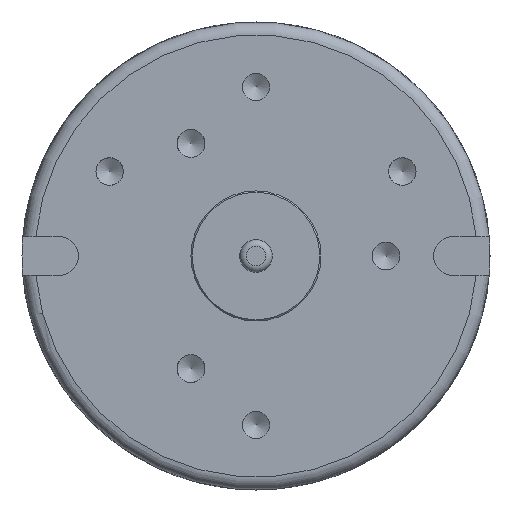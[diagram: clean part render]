
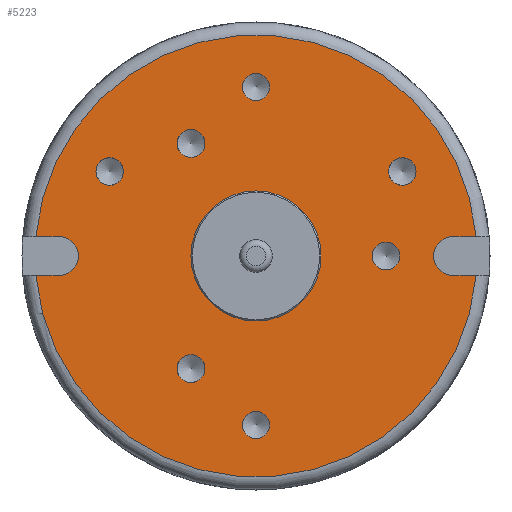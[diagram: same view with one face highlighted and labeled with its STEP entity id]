
A CAD part, front view. The second image highlights one B-rep face of the part: STEP entity #5223.
In plain terms, the highlighted planar face has unit normal (0, -1, 0).
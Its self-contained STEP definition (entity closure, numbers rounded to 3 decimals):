
#58=FACE_BOUND('',#707,.T.);
#59=FACE_BOUND('',#708,.T.);
#60=FACE_BOUND('',#709,.T.);
#61=FACE_BOUND('',#710,.T.);
#62=FACE_BOUND('',#711,.T.);
#63=FACE_BOUND('',#712,.T.);
#64=FACE_BOUND('',#713,.T.);
#65=FACE_BOUND('',#714,.T.);
#179=CIRCLE('',#5691,1.075);
#182=CIRCLE('',#5696,1.075);
#185=CIRCLE('',#5701,1.075);
#188=CIRCLE('',#5706,1.057);
#191=CIRCLE('',#5711,1.057);
#194=CIRCLE('',#5716,1.057);
#197=CIRCLE('',#5721,1.057);
#199=CIRCLE('',#5725,1.5);
#201=CIRCLE('',#5731,1.5);
#202=CIRCLE('',#5735,17.);
#203=CIRCLE('',#5736,17.);
#204=CIRCLE('',#5737,5.);
#417=FACE_OUTER_BOUND('',#706,.T.);
#706=EDGE_LOOP('',(#3683,#3684,#3685,#3686,#3687,#3688,#3689,#3690));
#707=EDGE_LOOP('',(#3691));
#708=EDGE_LOOP('',(#3692));
#709=EDGE_LOOP('',(#3693));
#710=EDGE_LOOP('',(#3694));
#711=EDGE_LOOP('',(#3695));
#712=EDGE_LOOP('',(#3696));
#713=EDGE_LOOP('',(#3697));
#714=EDGE_LOOP('',(#3698));
#1011=LINE('',#7904,#1563);
#1016=LINE('',#7928,#1568);
#1017=LINE('',#7942,#1569);
#1022=LINE('',#7966,#1574);
#1563=VECTOR('',#6460,1.784);
#1568=VECTOR('',#6475,1.784);
#1569=VECTOR('',#6478,1.784);
#1574=VECTOR('',#6493,1.784);
#2149=VERTEX_POINT('',#7822);
#2153=VERTEX_POINT('',#7833);
#2157=VERTEX_POINT('',#7844);
#2161=VERTEX_POINT('',#7855);
#2165=VERTEX_POINT('',#7866);
#2169=VERTEX_POINT('',#7877);
#2173=VERTEX_POINT('',#7888);
#2174=VERTEX_POINT('',#7892);
#2175=VERTEX_POINT('',#7903);
#2177=VERTEX_POINT('',#7909);
#2179=VERTEX_POINT('',#7917);
#2180=VERTEX_POINT('',#7930);
#2181=VERTEX_POINT('',#7941);
#2183=VERTEX_POINT('',#7947);
#2185=VERTEX_POINT('',#7955);
#2186=VERTEX_POINT('',#7970);
#2697=EDGE_CURVE('',#2149,#2149,#179,.T.);
#2702=EDGE_CURVE('',#2153,#2153,#182,.T.);
#2707=EDGE_CURVE('',#2157,#2157,#185,.T.);
#2712=EDGE_CURVE('',#2161,#2161,#188,.T.);
#2717=EDGE_CURVE('',#2165,#2165,#191,.T.);
#2722=EDGE_CURVE('',#2169,#2169,#194,.T.);
#2727=EDGE_CURVE('',#2173,#2173,#197,.T.);
#2729=EDGE_CURVE('',#2175,#2174,#1011,.T.);
#2734=EDGE_CURVE('',#2177,#2175,#199,.T.);
#2737=EDGE_CURVE('',#2179,#2177,#1016,.T.);
#2739=EDGE_CURVE('',#2181,#2180,#1017,.T.);
#2744=EDGE_CURVE('',#2183,#2181,#201,.T.);
#2747=EDGE_CURVE('',#2185,#2183,#1022,.T.);
#2748=EDGE_CURVE('',#2185,#2174,#202,.T.);
#2749=EDGE_CURVE('',#2179,#2180,#203,.T.);
#2750=EDGE_CURVE('',#2186,#2186,#204,.T.);
#3683=ORIENTED_EDGE('',*,*,#2737,.T.);
#3684=ORIENTED_EDGE('',*,*,#2734,.T.);
#3685=ORIENTED_EDGE('',*,*,#2729,.T.);
#3686=ORIENTED_EDGE('',*,*,#2748,.F.);
#3687=ORIENTED_EDGE('',*,*,#2747,.T.);
#3688=ORIENTED_EDGE('',*,*,#2744,.T.);
#3689=ORIENTED_EDGE('',*,*,#2739,.T.);
#3690=ORIENTED_EDGE('',*,*,#2749,.F.);
#3691=ORIENTED_EDGE('',*,*,#2697,.T.);
#3692=ORIENTED_EDGE('',*,*,#2702,.T.);
#3693=ORIENTED_EDGE('',*,*,#2707,.T.);
#3694=ORIENTED_EDGE('',*,*,#2712,.T.);
#3695=ORIENTED_EDGE('',*,*,#2717,.T.);
#3696=ORIENTED_EDGE('',*,*,#2722,.T.);
#3697=ORIENTED_EDGE('',*,*,#2727,.T.);
#3698=ORIENTED_EDGE('',*,*,#2750,.T.);
#4776=PLANE('',#5734);
#5223=ADVANCED_FACE('',(#417,#58,#59,#60,#61,#62,#63,#64,#65),#4776,.T.);
#5691=AXIS2_PLACEMENT_3D('',#7824,#6384,#6385);
#5696=AXIS2_PLACEMENT_3D('',#7835,#6396,#6397);
#5701=AXIS2_PLACEMENT_3D('',#7846,#6408,#6409);
#5706=AXIS2_PLACEMENT_3D('',#7857,#6420,#6421);
#5711=AXIS2_PLACEMENT_3D('',#7868,#6432,#6433);
#5716=AXIS2_PLACEMENT_3D('',#7879,#6444,#6445);
#5721=AXIS2_PLACEMENT_3D('',#7890,#6456,#6457);
#5725=AXIS2_PLACEMENT_3D('',#7913,#6468,#6469);
#5731=AXIS2_PLACEMENT_3D('',#7951,#6486,#6487);
#5734=AXIS2_PLACEMENT_3D('',#7967,#6494,#6495);
#5735=AXIS2_PLACEMENT_3D('',#7968,#6496,#6497);
#5736=AXIS2_PLACEMENT_3D('',#7969,#6498,#6499);
#5737=AXIS2_PLACEMENT_3D('',#7971,#6500,#6501);
#6384=DIRECTION('center_axis',(0.,1.,0.));
#6385=DIRECTION('ref_axis',(1.,0.,0.));
#6396=DIRECTION('center_axis',(0.,1.,0.));
#6397=DIRECTION('ref_axis',(1.,0.,0.));
#6408=DIRECTION('center_axis',(0.,1.,0.));
#6409=DIRECTION('ref_axis',(1.,0.,0.));
#6420=DIRECTION('center_axis',(0.,1.,0.));
#6421=DIRECTION('ref_axis',(1.,0.,0.));
#6432=DIRECTION('center_axis',(0.,1.,0.));
#6433=DIRECTION('ref_axis',(1.,0.,0.));
#6444=DIRECTION('center_axis',(0.,1.,0.));
#6445=DIRECTION('ref_axis',(1.,0.,0.));
#6456=DIRECTION('center_axis',(0.,1.,0.));
#6457=DIRECTION('ref_axis',(1.,0.,0.));
#6460=DIRECTION('',(1.,0.,0.));
#6468=DIRECTION('center_axis',(0.,1.,0.));
#6469=DIRECTION('ref_axis',(-1.,0.,0.));
#6475=DIRECTION('',(-1.,0.,0.));
#6478=DIRECTION('',(-1.,0.,0.));
#6486=DIRECTION('center_axis',(0.,1.,0.));
#6487=DIRECTION('ref_axis',(-1.,0.,0.));
#6493=DIRECTION('',(1.,0.,0.));
#6494=DIRECTION('center_axis',(0.,-1.,0.));
#6495=DIRECTION('ref_axis',(0.,0.,-1.));
#6496=DIRECTION('center_axis',(0.,1.,0.));
#6497=DIRECTION('ref_axis',(1.,0.,0.));
#6498=DIRECTION('center_axis',(0.,1.,0.));
#6499=DIRECTION('ref_axis',(1.,0.,0.));
#6500=DIRECTION('center_axis',(0.,1.,0.));
#6501=DIRECTION('ref_axis',(-1.,0.,0.));
#7822=CARTESIAN_POINT('',(-3.925,0.,-8.66));
#7824=CARTESIAN_POINT('Origin',(-5.,0.,-8.66));
#7833=CARTESIAN_POINT('',(-3.925,0.,8.66));
#7835=CARTESIAN_POINT('Origin',(-5.,0.,8.66));
#7844=CARTESIAN_POINT('',(11.075,0.,0.));
#7846=CARTESIAN_POINT('Origin',(10.,0.,0.));
#7855=CARTESIAN_POINT('',(12.315,0.,6.5));
#7857=CARTESIAN_POINT('Origin',(11.258,0.,6.5));
#7866=CARTESIAN_POINT('',(-10.202,0.,6.5));
#7868=CARTESIAN_POINT('Origin',(-11.258,0.,6.5));
#7877=CARTESIAN_POINT('',(1.057,0.,13.));
#7879=CARTESIAN_POINT('Origin',(0.,0.,13.));
#7888=CARTESIAN_POINT('',(1.057,0.,-13.));
#7890=CARTESIAN_POINT('Origin',(0.,0.,-13.));
#7892=CARTESIAN_POINT('',(16.934,0.,1.5));
#7903=CARTESIAN_POINT('',(15.15,0.,1.5));
#7904=CARTESIAN_POINT('',(15.15,0.,1.5));
#7909=CARTESIAN_POINT('',(15.15,0.,-1.5));
#7913=CARTESIAN_POINT('Origin',(15.15,0.,0.));
#7917=CARTESIAN_POINT('',(16.934,0.,-1.5));
#7928=CARTESIAN_POINT('',(16.934,0.,-1.5));
#7930=CARTESIAN_POINT('',(-16.934,0.,-1.5));
#7941=CARTESIAN_POINT('',(-15.15,0.,-1.5));
#7942=CARTESIAN_POINT('',(-15.15,0.,-1.5));
#7947=CARTESIAN_POINT('',(-15.15,0.,1.5));
#7951=CARTESIAN_POINT('Origin',(-15.15,0.,0.));
#7955=CARTESIAN_POINT('',(-16.934,0.,1.5));
#7966=CARTESIAN_POINT('',(-16.934,0.,1.5));
#7967=CARTESIAN_POINT('Origin',(0.,0.,0.));
#7968=CARTESIAN_POINT('Origin',(0.,0.,0.));
#7969=CARTESIAN_POINT('Origin',(0.,0.,0.));
#7970=CARTESIAN_POINT('',(5.,0.,0.));
#7971=CARTESIAN_POINT('Origin',(0.,0.,0.));
